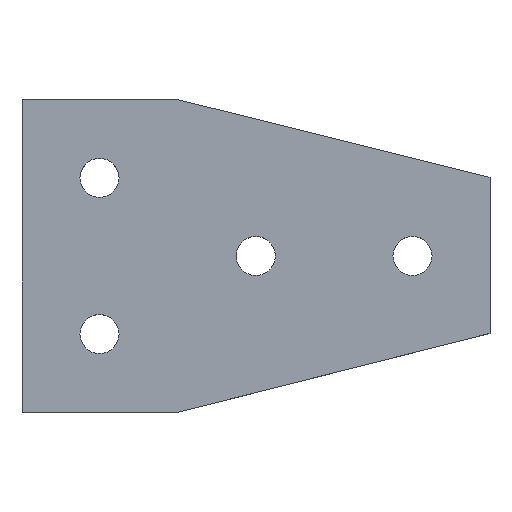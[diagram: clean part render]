
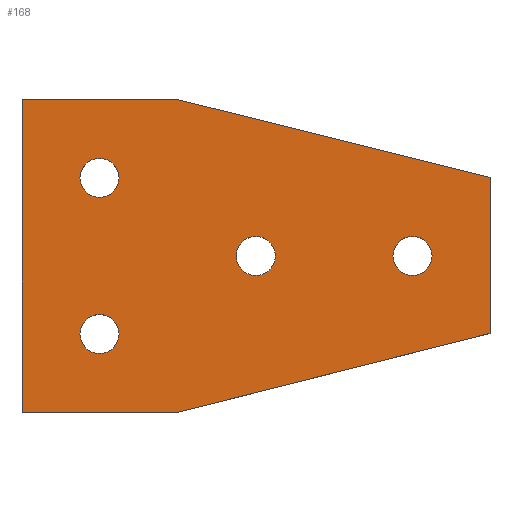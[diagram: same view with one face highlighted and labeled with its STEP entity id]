
A CAD part, top view. The second image highlights one B-rep face of the part: STEP entity #168.
In plain terms, the highlighted planar face has unit normal (0, 0, 1).
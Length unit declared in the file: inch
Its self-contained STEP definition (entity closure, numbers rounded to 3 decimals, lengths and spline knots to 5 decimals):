
#168=ADVANCED_FACE('',(#308,#309,#310,#311,#312),#313,.T.);
#308=FACE_BOUND('',#652,.T.);
#309=FACE_BOUND('',#653,.T.);
#310=FACE_BOUND('',#654,.T.);
#311=FACE_BOUND('',#655,.T.);
#312=FACE_OUTER_BOUND('',#656,.T.);
#313=PLANE('',#657);
#652=EDGE_LOOP('',(#841,#842,#843,#844));
#653=EDGE_LOOP('',(#845,#846,#847,#848));
#654=EDGE_LOOP('',(#849,#850,#851,#852));
#655=EDGE_LOOP('',(#853,#854,#855,#856));
#656=EDGE_LOOP('',(#857,#858,#859,#860,#861,#862));
#657=AXIS2_PLACEMENT_3D('',#863,#864,#865);
#841=ORIENTED_EDGE('',*,*,#905,.F.);
#842=ORIENTED_EDGE('',*,*,#932,.F.);
#843=ORIENTED_EDGE('',*,*,#939,.F.);
#844=ORIENTED_EDGE('',*,*,#876,.F.);
#845=ORIENTED_EDGE('',*,*,#895,.F.);
#846=ORIENTED_EDGE('',*,*,#953,.F.);
#847=ORIENTED_EDGE('',*,*,#958,.F.);
#848=ORIENTED_EDGE('',*,*,#914,.F.);
#849=ORIENTED_EDGE('',*,*,#956,.F.);
#850=ORIENTED_EDGE('',*,*,#941,.F.);
#851=ORIENTED_EDGE('',*,*,#962,.F.);
#852=ORIENTED_EDGE('',*,*,#890,.F.);
#853=ORIENTED_EDGE('',*,*,#881,.F.);
#854=ORIENTED_EDGE('',*,*,#886,.F.);
#855=ORIENTED_EDGE('',*,*,#950,.F.);
#856=ORIENTED_EDGE('',*,*,#960,.F.);
#857=ORIENTED_EDGE('',*,*,#909,.F.);
#858=ORIENTED_EDGE('',*,*,#948,.F.);
#859=ORIENTED_EDGE('',*,*,#935,.F.);
#860=ORIENTED_EDGE('',*,*,#964,.F.);
#861=ORIENTED_EDGE('',*,*,#945,.F.);
#862=ORIENTED_EDGE('',*,*,#900,.F.);
#863=CARTESIAN_POINT('',(2.18378,1.63082,0.375));
#864=DIRECTION('',(0.0,0.0,1.0));
#865=DIRECTION('',(1.0,0.0,0.0));
#876=EDGE_CURVE('',#967,#968,#969,.T.);
#881=EDGE_CURVE('',#976,#977,#978,.T.);
#886=EDGE_CURVE('',#985,#976,#986,.T.);
#890=EDGE_CURVE('',#991,#992,#993,.T.);
#895=EDGE_CURVE('',#1000,#1001,#1002,.T.);
#900=EDGE_CURVE('',#1009,#1010,#1011,.T.);
#905=EDGE_CURVE('',#1018,#967,#1019,.T.);
#909=EDGE_CURVE('',#1024,#1009,#1025,.T.);
#914=EDGE_CURVE('',#1001,#1031,#1032,.T.);
#932=EDGE_CURVE('',#1059,#1018,#1060,.T.);
#935=EDGE_CURVE('',#1063,#1064,#1065,.T.);
#939=EDGE_CURVE('',#968,#1059,#1069,.T.);
#941=EDGE_CURVE('',#1071,#1072,#1073,.T.);
#945=EDGE_CURVE('',#1010,#1077,#1078,.T.);
#948=EDGE_CURVE('',#1064,#1024,#1081,.T.);
#950=EDGE_CURVE('',#1083,#985,#1084,.T.);
#953=EDGE_CURVE('',#1087,#1000,#1088,.T.);
#956=EDGE_CURVE('',#1072,#991,#1091,.T.);
#958=EDGE_CURVE('',#1031,#1087,#1093,.T.);
#960=EDGE_CURVE('',#977,#1083,#1095,.T.);
#962=EDGE_CURVE('',#992,#1071,#1097,.T.);
#964=EDGE_CURVE('',#1077,#1063,#1099,.T.);
#967=VERTEX_POINT('',#1102);
#968=VERTEX_POINT('',#1103);
#969=B_SPLINE_CURVE_WITH_KNOTS('',3,(#1104,#1105,#1106,#1107),.UNSPECIFIED.,.F.,.F.,(4,4),(-1.0,-0.0),.UNSPECIFIED.);
#976=VERTEX_POINT('',#1119);
#977=VERTEX_POINT('',#1120);
#978=B_SPLINE_CURVE_WITH_KNOTS('',3,(#1121,#1122,#1123,#1124),.UNSPECIFIED.,.F.,.F.,(4,4),(-1.0,-0.0),.UNSPECIFIED.);
#985=VERTEX_POINT('',#1136);
#986=B_SPLINE_CURVE_WITH_KNOTS('',3,(#1137,#1138,#1139,#1140),.UNSPECIFIED.,.F.,.F.,(4,4),(-1.0,-0.0),.UNSPECIFIED.);
#991=VERTEX_POINT('',#1149);
#992=VERTEX_POINT('',#1150);
#993=B_SPLINE_CURVE_WITH_KNOTS('',3,(#1151,#1152,#1153,#1154),.UNSPECIFIED.,.F.,.F.,(4,4),(-1.0,-0.0),.UNSPECIFIED.);
#1000=VERTEX_POINT('',#1166);
#1001=VERTEX_POINT('',#1167);
#1002=B_SPLINE_CURVE_WITH_KNOTS('',3,(#1168,#1169,#1170,#1171),.UNSPECIFIED.,.F.,.F.,(4,4),(-1.0,-0.0),.UNSPECIFIED.);
#1009=VERTEX_POINT('',#1183);
#1010=VERTEX_POINT('',#1184);
#1011=LINE('',#1185,#1186);
#1018=VERTEX_POINT('',#1196);
#1019=B_SPLINE_CURVE_WITH_KNOTS('',3,(#1197,#1198,#1199,#1200),.UNSPECIFIED.,.F.,.F.,(4,4),(-1.0,-0.0),.UNSPECIFIED.);
#1024=VERTEX_POINT('',#1209);
#1025=LINE('',#1210,#1211);
#1031=VERTEX_POINT('',#1219);
#1032=B_SPLINE_CURVE_WITH_KNOTS('',3,(#1220,#1221,#1222,#1223),.UNSPECIFIED.,.F.,.F.,(4,4),(-1.0,-0.0),.UNSPECIFIED.);
#1059=VERTEX_POINT('',#1285);
#1060=B_SPLINE_CURVE_WITH_KNOTS('',3,(#1286,#1287,#1288,#1289),.UNSPECIFIED.,.F.,.F.,(4,4),(-1.0,-0.0),.UNSPECIFIED.);
#1063=VERTEX_POINT('',#1293);
#1064=VERTEX_POINT('',#1294);
#1065=LINE('',#1295,#1296);
#1069=B_SPLINE_CURVE_WITH_KNOTS('',3,(#1302,#1303,#1304,#1305),.UNSPECIFIED.,.F.,.F.,(4,4),(-1.0,-0.0),.UNSPECIFIED.);
#1071=VERTEX_POINT('',#1307);
#1072=VERTEX_POINT('',#1308);
#1073=B_SPLINE_CURVE_WITH_KNOTS('',3,(#1309,#1310,#1311,#1312),.UNSPECIFIED.,.F.,.F.,(4,4),(-1.0,-0.0),.UNSPECIFIED.);
#1077=VERTEX_POINT('',#1318);
#1078=LINE('',#1319,#1320);
#1081=LINE('',#1324,#1325);
#1083=VERTEX_POINT('',#1327);
#1084=B_SPLINE_CURVE_WITH_KNOTS('',3,(#1328,#1329,#1330,#1331),.UNSPECIFIED.,.F.,.F.,(4,4),(-1.0,-0.0),.UNSPECIFIED.);
#1087=VERTEX_POINT('',#1335);
#1088=B_SPLINE_CURVE_WITH_KNOTS('',3,(#1336,#1337,#1338,#1339),.UNSPECIFIED.,.F.,.F.,(4,4),(-1.0,-0.0),.UNSPECIFIED.);
#1091=B_SPLINE_CURVE_WITH_KNOTS('',3,(#1343,#1344,#1345,#1346),.UNSPECIFIED.,.F.,.F.,(4,4),(-1.0,-0.0),.UNSPECIFIED.);
#1093=B_SPLINE_CURVE_WITH_KNOTS('',3,(#1348,#1349,#1350,#1351),.UNSPECIFIED.,.F.,.F.,(4,4),(-1.0,-0.0),.UNSPECIFIED.);
#1095=B_SPLINE_CURVE_WITH_KNOTS('',3,(#1353,#1354,#1355,#1356),.UNSPECIFIED.,.F.,.F.,(4,4),(-1.0,-0.0),.UNSPECIFIED.);
#1097=B_SPLINE_CURVE_WITH_KNOTS('',3,(#1358,#1359,#1360,#1361),.UNSPECIFIED.,.F.,.F.,(4,4),(-1.0,-0.0),.UNSPECIFIED.);
#1099=LINE('',#1363,#1364);
#1102=CARTESIAN_POINT('',(1.01206,0.81448,0.375));
#1103=CARTESIAN_POINT('',(0.80834,1.01815,0.375));
#1104=CARTESIAN_POINT('',(1.01206,0.81448,0.375));
#1105=CARTESIAN_POINT('',(1.01206,0.92691,0.375));
#1106=CARTESIAN_POINT('',(0.9208,1.01815,0.375));
#1107=CARTESIAN_POINT('',(0.80834,1.01815,0.375));
#1119=CARTESIAN_POINT('',(4.07257,1.42528,0.375));
#1120=CARTESIAN_POINT('',(4.27629,1.62895,0.375));
#1121=CARTESIAN_POINT('',(4.07257,1.42528,0.375));
#1122=CARTESIAN_POINT('',(4.18503,1.42528,0.375));
#1123=CARTESIAN_POINT('',(4.27629,1.51652,0.375));
#1124=CARTESIAN_POINT('',(4.27629,1.62895,0.375));
#1136=CARTESIAN_POINT('',(3.86886,1.62895,0.375));
#1137=CARTESIAN_POINT('',(3.86886,1.62895,0.375));
#1138=CARTESIAN_POINT('',(3.86886,1.51652,0.375));
#1139=CARTESIAN_POINT('',(3.96012,1.42528,0.375));
#1140=CARTESIAN_POINT('',(4.07257,1.42528,0.375));
#1149=CARTESIAN_POINT('',(2.64103,1.62895,0.375));
#1150=CARTESIAN_POINT('',(2.4373,1.83263,0.375));
#1151=CARTESIAN_POINT('',(2.64103,1.62895,0.375));
#1152=CARTESIAN_POINT('',(2.64103,1.74139,0.375));
#1153=CARTESIAN_POINT('',(2.54976,1.83263,0.375));
#1154=CARTESIAN_POINT('',(2.4373,1.83263,0.375));
#1166=CARTESIAN_POINT('',(0.80834,2.23975,0.375));
#1167=CARTESIAN_POINT('',(1.01206,2.44343,0.375));
#1168=CARTESIAN_POINT('',(0.80834,2.23975,0.375));
#1169=CARTESIAN_POINT('',(0.9208,2.23975,0.375));
#1170=CARTESIAN_POINT('',(1.01206,2.331,0.375));
#1171=CARTESIAN_POINT('',(1.01206,2.44343,0.375));
#1183=CARTESIAN_POINT('',(0.0,0.0,0.375));
#1184=CARTESIAN_POINT('',(0.0,3.25791,0.375));
#1185=CARTESIAN_POINT('',(0.0,3.25791,0.375));
#1186=VECTOR('',#1375,1.0);
#1196=CARTESIAN_POINT('',(0.80834,0.6108,0.375));
#1197=CARTESIAN_POINT('',(0.80834,0.6108,0.375));
#1198=CARTESIAN_POINT('',(0.9208,0.6108,0.375));
#1199=CARTESIAN_POINT('',(1.01206,0.70204,0.375));
#1200=CARTESIAN_POINT('',(1.01206,0.81448,0.375));
#1209=CARTESIAN_POINT('',(1.62896,0.0,0.375));
#1210=CARTESIAN_POINT('',(0.0,0.0,0.375));
#1211=VECTOR('',#1380,1.0);
#1219=CARTESIAN_POINT('',(0.80834,2.64711,0.375));
#1220=CARTESIAN_POINT('',(1.01206,2.44343,0.375));
#1221=CARTESIAN_POINT('',(1.01206,2.55587,0.375));
#1222=CARTESIAN_POINT('',(0.9208,2.64711,0.375));
#1223=CARTESIAN_POINT('',(0.80834,2.64711,0.375));
#1285=CARTESIAN_POINT('',(0.60463,0.81448,0.375));
#1286=CARTESIAN_POINT('',(0.60463,0.81448,0.375));
#1287=CARTESIAN_POINT('',(0.60463,0.70204,0.375));
#1288=CARTESIAN_POINT('',(0.6959,0.6108,0.375));
#1289=CARTESIAN_POINT('',(0.80834,0.6108,0.375));
#1293=CARTESIAN_POINT('',(4.88093,2.44975,0.375));
#1294=CARTESIAN_POINT('',(4.88093,0.82079,0.375));
#1295=CARTESIAN_POINT('',(4.88093,0.82079,0.375));
#1296=VECTOR('',#1389,1.0);
#1302=CARTESIAN_POINT('',(0.80834,1.01815,0.375));
#1303=CARTESIAN_POINT('',(0.6959,1.01815,0.375));
#1304=CARTESIAN_POINT('',(0.60463,0.92691,0.375));
#1305=CARTESIAN_POINT('',(0.60463,0.81448,0.375));
#1307=CARTESIAN_POINT('',(2.23358,1.62895,0.375));
#1308=CARTESIAN_POINT('',(2.4373,1.42528,0.375));
#1309=CARTESIAN_POINT('',(2.23358,1.62895,0.375));
#1310=CARTESIAN_POINT('',(2.23358,1.51652,0.375));
#1311=CARTESIAN_POINT('',(2.32485,1.42528,0.375));
#1312=CARTESIAN_POINT('',(2.4373,1.42528,0.375));
#1318=CARTESIAN_POINT('',(1.62896,3.25791,0.375));
#1319=CARTESIAN_POINT('',(1.62896,3.25791,0.375));
#1320=VECTOR('',#1394,1.0);
#1324=CARTESIAN_POINT('',(1.62896,0.0,0.375));
#1325=VECTOR('',#1396,1.0);
#1327=CARTESIAN_POINT('',(4.07257,1.83263,0.375));
#1328=CARTESIAN_POINT('',(4.07257,1.83263,0.375));
#1329=CARTESIAN_POINT('',(3.96012,1.83263,0.375));
#1330=CARTESIAN_POINT('',(3.86886,1.74139,0.375));
#1331=CARTESIAN_POINT('',(3.86886,1.62895,0.375));
#1335=CARTESIAN_POINT('',(0.60463,2.44343,0.375));
#1336=CARTESIAN_POINT('',(0.60463,2.44343,0.375));
#1337=CARTESIAN_POINT('',(0.60463,2.331,0.375));
#1338=CARTESIAN_POINT('',(0.6959,2.23975,0.375));
#1339=CARTESIAN_POINT('',(0.80834,2.23975,0.375));
#1343=CARTESIAN_POINT('',(2.4373,1.42528,0.375));
#1344=CARTESIAN_POINT('',(2.54976,1.42528,0.375));
#1345=CARTESIAN_POINT('',(2.64103,1.51652,0.375));
#1346=CARTESIAN_POINT('',(2.64103,1.62895,0.375));
#1348=CARTESIAN_POINT('',(0.80834,2.64711,0.375));
#1349=CARTESIAN_POINT('',(0.6959,2.64711,0.375));
#1350=CARTESIAN_POINT('',(0.60463,2.55587,0.375));
#1351=CARTESIAN_POINT('',(0.60463,2.44343,0.375));
#1353=CARTESIAN_POINT('',(4.27629,1.62895,0.375));
#1354=CARTESIAN_POINT('',(4.27629,1.74139,0.375));
#1355=CARTESIAN_POINT('',(4.18503,1.83263,0.375));
#1356=CARTESIAN_POINT('',(4.07257,1.83263,0.375));
#1358=CARTESIAN_POINT('',(2.4373,1.83263,0.375));
#1359=CARTESIAN_POINT('',(2.32485,1.83263,0.375));
#1360=CARTESIAN_POINT('',(2.23358,1.74139,0.375));
#1361=CARTESIAN_POINT('',(2.23358,1.62895,0.375));
#1363=CARTESIAN_POINT('',(4.88093,2.44975,0.375));
#1364=VECTOR('',#1399,1.0);
#1375=DIRECTION('',(0.0,1.0,0.0));
#1380=DIRECTION('',(-1.0,-0.0,-0.0));
#1389=DIRECTION('',(-0.0,-1.0,-0.0));
#1394=DIRECTION('',(1.0,0.0,0.0));
#1396=DIRECTION('',(-0.97,-0.245,-0.0));
#1399=DIRECTION('',(0.97,-0.241,0.0));
